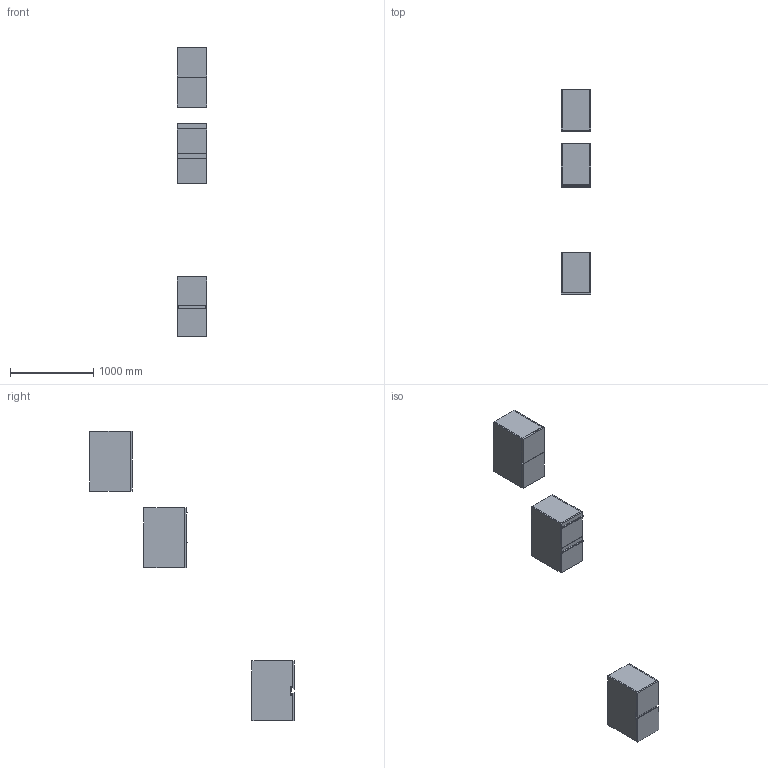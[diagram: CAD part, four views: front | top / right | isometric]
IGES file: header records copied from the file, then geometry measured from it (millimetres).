
Start section: Data from Parasolid IGES Translator 19.0.9, Copyright(c) 2006 Siemens PL M Software. All Rights Reserved.
Global section: file name: noorth-SI-H 72 D 51 W 36_8628.igs; native system: By Siemens PLM Incorporated; preprocessor: XPlus GENERIC/IGES 19.0.9; author: Noname; organization: Noname; date: 20200601.121941; units: metre
Bounding box: 360 x 2458 x 3480.01 mm (x, y, z)
Volume: 65462502.6 mm3; surface area: 9685190.2 mm2
Topology: 24 solids, 24 shells, 248 faces, 544 edges, 324 vertices
Faces by surface type: plane 164, extrusion 36, bspline 32, cylinder 16
